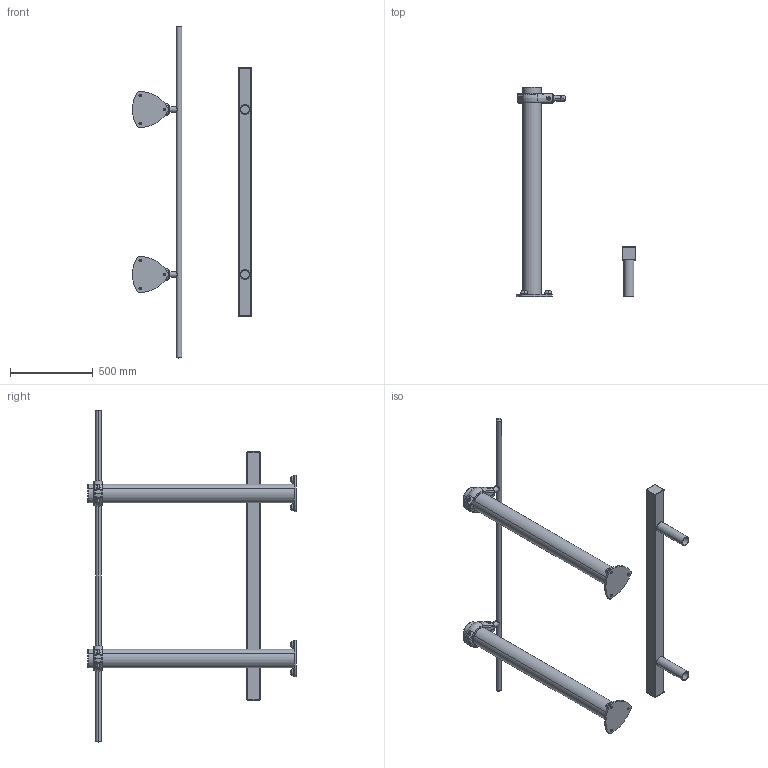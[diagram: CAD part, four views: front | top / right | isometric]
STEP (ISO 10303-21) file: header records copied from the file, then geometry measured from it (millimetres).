
FILE_DESCRIPTION (( 'STEP AP203' ), '1' );
FILE_NAME ('PMS0804 - POUTRE D''ÉQUILIBRE DROITE.STEP', '2024-07-30T06:34:07', ( '' ), ( '' ), 'SwSTEP 2.0', 'SolidWorks 2024', '' );
FILE_SCHEMA (( 'CONFIG_CONTROL_DESIGN' ));
Length unit declared in the file: millimetre
Products named in the file (1): PMS0804 - POUTRE D''ÉQUILIBRE DROITE
Bounding box: 721.88 x 1265 x 2012 mm (x, y, z)
Surface area: 2098379.8 mm2 (no closed solid volume)
Topology: 0 solids, 48 shells, 462 faces, 1571 edges, 1104 vertices
Faces by surface type: bspline 157, cylinder 147, plane 103, torus 28, sphere 14, cone 13
Entity records: 28072 total; most frequent: CARTESIAN_POINT 16305, ORIENTED_EDGE 2382, DIRECTION 2093, EDGE_CURVE 1567, VERTEX_POINT 1104, AXIS2_PLACEMENT_3D 823, CIRCLE 517, EDGE_LOOP 495
